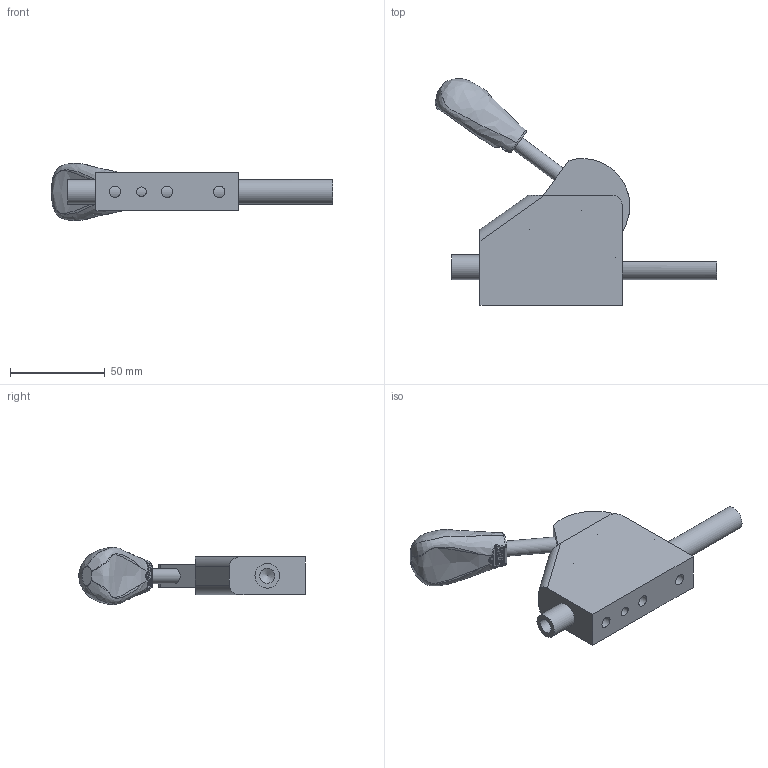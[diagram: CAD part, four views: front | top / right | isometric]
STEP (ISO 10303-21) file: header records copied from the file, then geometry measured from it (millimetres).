
FILE_DESCRIPTION(/* description */ (''),/* implementation_level */ '2;1');
FILE_NAME(/* name */ '\\192.168.1.150\pc03\Inventor\デュアルメカニズムクランプ最終\2017.10月　最新型\YSP-50ST\YSP-50ST-UNCLAMP.stp',/* time_stamp */ '2024-05-14T17:32:14+09:00',/* author */ ('Backup'),/* organization */ (''),/* preprocessor_version */ 'ST-DEVELOPER v17',/* originating_system */ 'Autodesk Inventor 2019',/* authorisation */ '');
FILE_SCHEMA (('AUTOMOTIVE_DESIGN { 1 0 10303 214 3 1 1 }'));
Length unit declared in the file: millimetre
Products named in the file (6): YSP-50ST-CLAMP; YO-M35S ボディ; 50-30_VER4_PG2__12; Φ8×40ｼｬﾌﾄ; YO-M35S　カム; YO－M３５S スライドバー
Assembly tree (5 placements, depth 2):
  YSP-50ST-CLAMP
    YO-M35S ボディ
    50-30_VER4_PG2__12
    Φ8×40ｼｬﾌﾄ
    YO-M35S　カム
    YO－M３５S スライドバー
Bounding box: 148.69 x 119.45 x 30.18 mm (x, y, z)
Volume: 99769.9 mm3; surface area: 38463.7 mm2
Topology: 5 solids, 5 shells, 193 faces, 534 edges, 354 vertices
Faces by surface type: plane 93, cylinder 69, bspline 24, sphere 4, cone 3
Full cylindrical faces by diameter (mm): 0.01 x11, 1.306 x1, 5 x2, 5.1 x1, 6 x4, 8 x3, 13 x2
Entity records: 16514 total; most frequent: CARTESIAN_POINT 11381, ORIENTED_EDGE 1060, DIRECTION 983, EDGE_CURVE 530, VERTEX_POINT 354, AXIS2_PLACEMENT_3D 351, LINE 281, VECTOR 281
